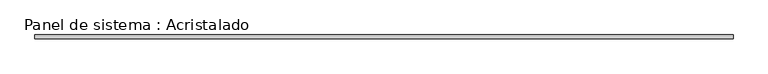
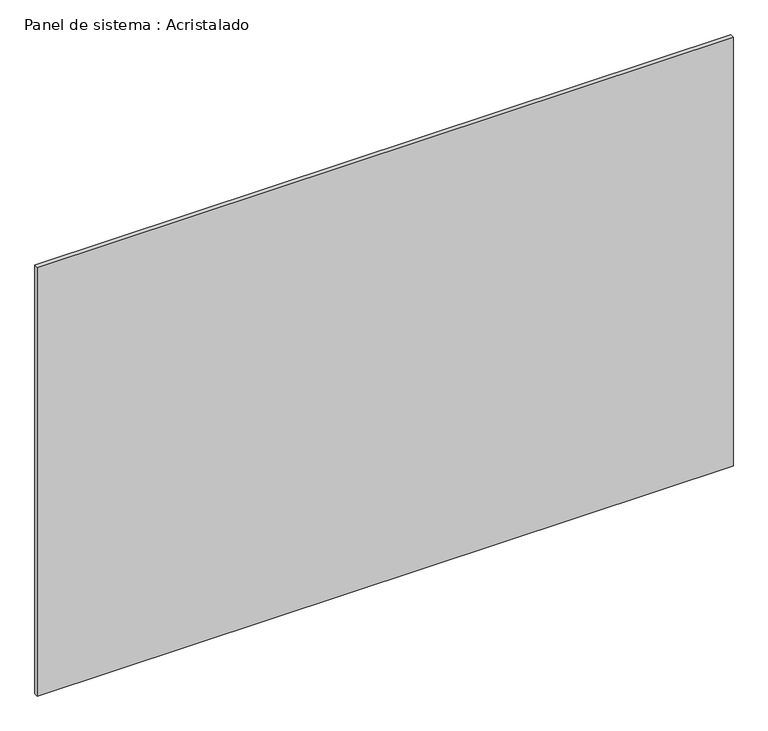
"""IFC4 building model written with IfcOpenShell, lengths in millimetres: plate geometry, Panel de sistema : Acristalado."""

import ifcopenshell
import ifcopenshell.guid

model = None  # the IFC model being written
_history = None  # IfcOwnerHistory: only IFC2X3 demands one
_inside = {}  # id of a spatial element -> (the spatial element, [elements in it])
_under = {}  # id of a project, library or spatial element -> (it, [spatial elements below it])
_declared = {}  # id of a project -> (the project, [libraries it declares])
_typed = {}  # id of a type object -> (the type object, [elements of that type])
_made_of = {}  # id of a material, layer set ... -> (it, [elements and type objects made of it])


def new_model(schema):
    """Start an empty IFC model of exactly this schema.

    Asked for "IFC4X3", IfcOpenShell would pick the latest addendum, in which some entities
    have other attributes; the version numbers below select the first issue.
    IFC2X3 requires an IfcOwnerHistory on every rooted entity: one is made here for all.
    """
    global model, _history
    if schema == "IFC4X3":
        model = ifcopenshell.file(schema_version=(4, 3, 0, 0))
    else:
        model = ifcopenshell.file(schema=schema)
    _inside.clear()
    _under.clear()
    _declared.clear()
    _typed.clear()
    _made_of.clear()
    _history = None
    if model.schema == "IFC2X3":
        org = make("IfcOrganization", Name="unknown")
        user = make(
            "IfcPersonAndOrganization",
            ThePerson=make("IfcPerson", FamilyName="unknown"),
            TheOrganization=org,
        )
        app = make(
            "IfcApplication",
            ApplicationDeveloper=org,
            Version="unknown",
            ApplicationFullName="unknown",
            ApplicationIdentifier="unknown",
        )
        _history = make(
            "IfcOwnerHistory",
            OwningUser=user,
            OwningApplication=app,
            ChangeAction="ADDED",
            CreationDate=0,
        )
    return model


def make(cls, **values):
    """One entity of the class cls with the attributes given. An attribute that is None is left unset."""
    return model.create_entity(
        cls, **{name: value for name, value in values.items() if value is not None}
    )


def rooted(cls, **values):
    """An entity with a GlobalId (a new one), such as an element, a storey or a relation."""
    return make(cls, GlobalId=ifcopenshell.guid.new(), OwnerHistory=_history, **values)


def si_unit(unit_type, name, prefix=None):
    """IfcSIUnit, for example si_unit("LENGTHUNIT", "METRE", prefix="MILLI")."""
    return make("IfcSIUnit", UnitType=unit_type, Prefix=prefix, Name=name)


def assignment(units):
    """IfcUnitAssignment: the units of a project."""
    return None if units is None else make("IfcUnitAssignment", Units=units)


def point(xyz):
    """IfcCartesianPoint."""
    return None if xyz is None else make("IfcCartesianPoint", Coordinates=xyz)


def direction(xyz):
    """IfcDirection."""
    return None if xyz is None else make("IfcDirection", DirectionRatios=xyz)


def frame(location, z_axis=None, x_axis=None):
    """IfcAxis2Placement3D, a coordinate frame: its origin and axes. An axis left out is left unset."""
    return make(
        "IfcAxis2Placement3D",
        Location=point(location),
        Axis=direction(z_axis),
        RefDirection=direction(x_axis),
    )


def origin():
    """The frame at (0, 0, 0) with its axes left unset."""
    return frame((0.0, 0.0, 0.0))


def origin_with_axes():
    """The frame at (0, 0, 0) with the z axis (0, 0, 1) and the x axis (1, 0, 0) written out."""
    return frame((0.0, 0.0, 0.0), z_axis=(0.0, 0.0, 1.0), x_axis=(1.0, 0.0, 0.0))


def place(relative_to, where):
    """IfcLocalPlacement: puts the frame where relative to a parent placement (None: the world)."""
    return make(
        "IfcLocalPlacement", PlacementRelTo=relative_to, RelativePlacement=where
    )


def context(
    kind, dimensions, precision=None, world=None, true_north=None, identifier=None
):
    """IfcGeometricRepresentationContext, for example the 3D "Model" context."""
    return make(
        "IfcGeometricRepresentationContext",
        ContextIdentifier=identifier,
        ContextType=kind,
        CoordinateSpaceDimension=dimensions,
        Precision=precision,
        WorldCoordinateSystem=world,
        TrueNorth=true_north,
    )


def project(units=None, contexts=None):
    """IfcProject with its units and contexts."""
    return rooted(
        "IfcProject",
        Name="project",
        RepresentationContexts=contexts,
        UnitsInContext=assignment(units),
    )


def spatial(cls, under=None, at=None, **own):
    """A site, building, storey or space (cls), placed at a placement, below another one or the project."""
    s = rooted(cls, ObjectPlacement=at, **own)
    if under is not None:
        _under.setdefault(under.id(), (under, []))[1].append(s)
    return s


def polyline(points):
    """IfcPolyline through the points."""
    return make("IfcPolyline", Points=[point(p) for p in points])


def outline(outer, holes=None, kind="AREA"):
    """IfcArbitraryClosedProfileDef: a profile drawn as a closed curve; with holes, ...WithVoids."""
    if holes is None:
        return make("IfcArbitraryClosedProfileDef", ProfileType=kind, OuterCurve=outer)
    return make(
        "IfcArbitraryProfileDefWithVoids",
        ProfileType=kind,
        OuterCurve=outer,
        InnerCurves=holes,
    )


def extrude(swept, where, along, depth):
    """IfcExtrudedAreaSolid: the profile swept, set in the frame where, extruded along a direction by depth."""
    return make(
        "IfcExtrudedAreaSolid",
        SweptArea=swept,
        Position=where,
        ExtrudedDirection=direction(along),
        Depth=depth,
    )


def shape(context_of_items, identifier, shape_type, items):
    """IfcShapeRepresentation: the items that make up one representation, for example the "Body"."""
    return make(
        "IfcShapeRepresentation",
        ContextOfItems=context_of_items,
        RepresentationIdentifier=identifier,
        RepresentationType=shape_type,
        Items=items,
    )


def source(mapping_origin, context_of_items, identifier, shape_type, items):
    """IfcRepresentationMap: a shape defined once, which mapped items show again and again."""
    return make(
        "IfcRepresentationMap",
        MappingOrigin=mapping_origin,
        MappedRepresentation=shape(context_of_items, identifier, shape_type, items),
    )


def transform(
    local_origin,
    x_axis=None,
    y_axis=None,
    z_axis=None,
    scale=None,
    scale2=None,
    scale3=None,
    uniform=True,
):
    """IfcCartesianTransformationOperator3D, or its non-uniform kind. x_axis, y_axis, z_axis: its Axis1, 2, 3."""
    if uniform:
        return make(
            "IfcCartesianTransformationOperator3D",
            Axis1=direction(x_axis),
            Axis2=direction(y_axis),
            LocalOrigin=point(local_origin),
            Scale=scale,
            Axis3=direction(z_axis),
        )
    return make(
        "IfcCartesianTransformationOperator3DnonUniform",
        Axis1=direction(x_axis),
        Axis2=direction(y_axis),
        LocalOrigin=point(local_origin),
        Scale=scale,
        Axis3=direction(z_axis),
        Scale2=scale2,
        Scale3=scale3,
    )


def mapped(mapping_source, mapping_target):
    """IfcMappedItem: shows the shape of a source again, moved by a transform."""
    return make(
        "IfcMappedItem", MappingSource=mapping_source, MappingTarget=mapping_target
    )


def made_of(thing, what):
    """Note that an element or type object is made of a material, layer set ...; save() writes the relation."""
    if what is not None:
        _made_of.setdefault(what.id(), (what, []))[1].append(thing)
    return thing


def element(
    cls,
    number,
    at=None,
    inside=None,
    cuts=None,
    type_object=None,
    material=None,
    context=None,
    identifier="Body",
    shape_type=None,
    held_by="IfcProductDefinitionShape",
    body=None,
    shapes=None,
    **own,
):
    """One element of the class cls, such as IfcWall. Its Tag is "e" and its number.

    at: its placement. inside: the storey or other place that contains it. cuts: it is an
    opening in that element (IfcRelVoidsElement). A single representation is given by context,
    identifier, shape_type and body (its items); several are given by shapes. held_by: the class
    of the entity that holds the representations. save() writes the other relations.
    """
    e = rooted(cls, Tag="e%d" % number, ObjectPlacement=at, **own)
    if body is not None:
        shapes = [shape(context, identifier, shape_type, body)]
    if shapes is not None:
        e.Representation = make(held_by, Representations=shapes)
    if inside is not None:
        _inside.setdefault(inside.id(), (inside, []))[1].append(e)
    if cuts is not None:
        rooted(
            "IfcRelVoidsElement", RelatingBuildingElement=cuts, RelatedOpeningElement=e
        )
    if type_object is not None:
        _typed.setdefault(type_object.id(), (type_object, []))[1].append(e)
    return made_of(e, material)


def aggregate(whole, parts):
    """IfcRelAggregates: a whole, such as a stair, and the parts it consists of."""
    return rooted("IfcRelAggregates", RelatingObject=whole, RelatedObjects=parts)


def save(model, path):
    """Write the relations noted so far, then the file.

    IfcRelAggregates (storeys below a building ...), IfcRelContainedInSpatialStructure (elements
    in a storey), IfcRelDefinesByType, IfcRelAssociatesMaterial and IfcRelDeclares: one each for
    every whole, place, type object, material and project.
    """
    for whole, parts in _under.values():
        aggregate(whole, parts)
    for where, things in _inside.values():
        rooted(
            "IfcRelContainedInSpatialStructure",
            RelatedElements=things,
            RelatingStructure=where,
        )
    for kind, things in _typed.values():
        rooted("IfcRelDefinesByType", RelatedObjects=things, RelatingType=kind)
    for what, things in _made_of.values():
        rooted("IfcRelAssociatesMaterial", RelatedObjects=things, RelatingMaterial=what)
    for by, libraries in _declared.values():
        rooted("IfcRelDeclares", RelatingContext=by, RelatedDefinitions=libraries)
    model.write(path)


def panel_de_sistema_acristalado_f66ec8ae(model_context):
    return source(origin(), model_context, "Body", "SweptSolid", [
        extrude(outline(polyline([(1765.0, -10.0), (-1765.0, -10.0), (-1765.0, 10.0), (1765.0, 10.0), (1765.0, -10.0)])), origin_with_axes(), (0.0, 0.0, 1.0), 2300.0),
    ])


if __name__ == "__main__":
    model = new_model("IFC4")
    model_context = context("Model", 3, world=origin())
    ifc_project = project(units=[si_unit("LENGTHUNIT", "METRE", prefix="MILLI")], contexts=[model_context])
    site = spatial("IfcSite", under=ifc_project)
    building = spatial("IfcBuilding", under=site)
    placement = place(None, origin())
    panel_de_sistema_acristalado_shape = panel_de_sistema_acristalado_f66ec8ae(model_context)
    element("IfcPlate", 1, ObjectType="Panel de sistema : Acristalado", at=placement, inside=building, context=model_context, shape_type="MappedRepresentation", body=[
        mapped(panel_de_sistema_acristalado_shape, transform((0.0, 0.0, 0.0), x_axis=(1.0, 0.0, 0.0), y_axis=(0.0, 1.0, 0.0), z_axis=(0.0, 0.0, 1.0))),
    ])
    save(model, "model.ifc")
